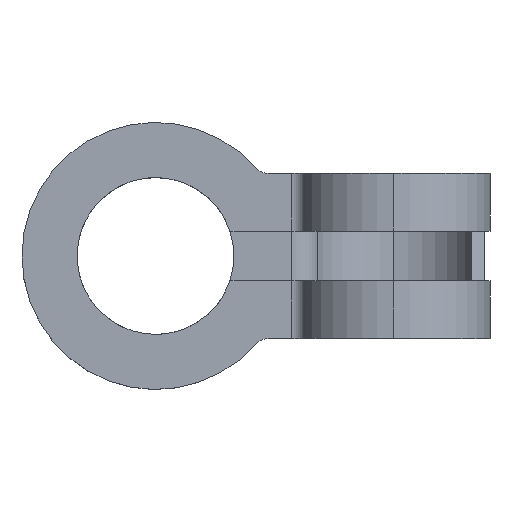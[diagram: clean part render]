
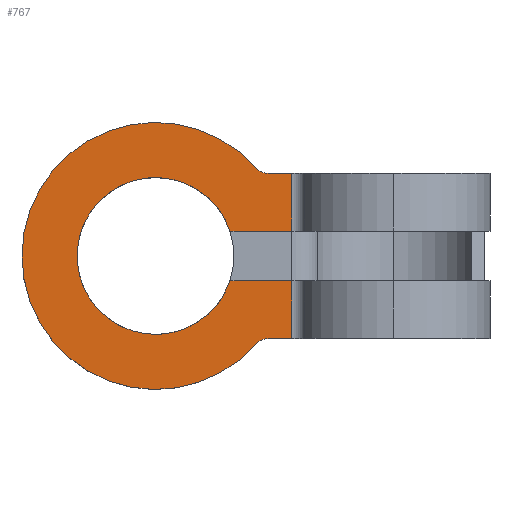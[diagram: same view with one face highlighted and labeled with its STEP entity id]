
A CAD part, top view. The second image highlights one B-rep face of the part: STEP entity #767.
In plain terms, the highlighted planar face has unit normal (0, 0, 1).
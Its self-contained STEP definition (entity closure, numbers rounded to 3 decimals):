
#39 = CARTESIAN_POINT ( 'NONE',  ( 4.942, 3., 1. ) ) ;
#202 = EDGE_CURVE ( 'NONE', #340, #315, #939, .T. ) ;
#259 = VERTEX_POINT ( 'NONE', #974 ) ;
#271 = VERTEX_POINT ( 'NONE', #1033 ) ;
#274 = ORIENTED_EDGE ( 'NONE', *, *, #314, .F. ) ;
#299 = VERTEX_POINT ( 'NONE', #434 ) ;
#314 = EDGE_CURVE ( 'NONE', #777, #299, #587, .T. ) ;
#315 = VERTEX_POINT ( 'NONE', #607 ) ;
#316 = ORIENTED_EDGE ( 'NONE', *, *, #466, .F. ) ;
#340 = VERTEX_POINT ( 'NONE', #39 ) ;
#359 = ORIENTED_EDGE ( 'NONE', *, *, #794, .F. ) ;
#378 = EDGE_CURVE ( 'NONE', #396, #259, #1078, .T. ) ;
#396 = VERTEX_POINT ( 'NONE', #422 ) ;
#401 = ORIENTED_EDGE ( 'NONE', *, *, #1028, .F. ) ;
#405 = ORIENTED_EDGE ( 'NONE', *, *, #202, .T. ) ;
#411 = EDGE_CURVE ( 'NONE', #271, #396, #545, .T. ) ;
#422 = CARTESIAN_POINT ( 'NONE',  ( 2.704, 0.9, 1. ) ) ;
#434 = CARTESIAN_POINT ( 'NONE',  ( 3.641, -3.204, 1. ) ) ;
#459 = LINE ( 'NONE', #460, #461 ) ;
#460 = CARTESIAN_POINT ( 'NONE',  ( 4.942, 0., 1. ) ) ;
#461 = VECTOR ( 'NONE', #462, 1000. ) ;
#462 = DIRECTION ( 'NONE',  ( 0., -1., 0. ) ) ;
#465 = EDGE_CURVE ( 'NONE', #259, #833, #626, .T. ) ;
#466 = EDGE_CURVE ( 'NONE', #299, #880, #630, .T. ) ;
#545 = LINE ( 'NONE', #546, #549 ) ;
#546 = CARTESIAN_POINT ( 'NONE',  ( 0.046, 0.9, 1. ) ) ;
#549 = VECTOR ( 'NONE', #550, 1000. ) ;
#550 = DIRECTION ( 'NONE',  ( -1., 0., 0. ) ) ;
#586 = EDGE_CURVE ( 'NONE', #833, #758, #717, .T. ) ;
#587 = CIRCLE ( 'NONE', #588, 0.6 ) ;
#588 = AXIS2_PLACEMENT_3D ( 'NONE', #589, #590, #591 ) ;
#589 = CARTESIAN_POINT ( 'NONE',  ( 4.092, -3.6, 1. ) ) ;
#590 = DIRECTION ( 'NONE',  ( 0., 0., 1. ) ) ;
#591 = DIRECTION ( 'NONE',  ( 1., 0., 0. ) ) ;
#607 = CARTESIAN_POINT ( 'NONE',  ( 4.092, 3., 1. ) ) ;
#626 = LINE ( 'NONE', #627, #628 ) ;
#627 = CARTESIAN_POINT ( 'NONE',  ( 0.046, -0.9, 1. ) ) ;
#628 = VECTOR ( 'NONE', #629, 1000. ) ;
#629 = DIRECTION ( 'NONE',  ( 1., 0., 0. ) ) ;
#630 = CIRCLE ( 'NONE', #631, 4.85 ) ;
#631 = AXIS2_PLACEMENT_3D ( 'NONE', #632, #633, #634 ) ;
#632 = CARTESIAN_POINT ( 'NONE',  ( 0., 0., 1. ) ) ;
#633 = DIRECTION ( 'NONE',  ( 0., 0., -1. ) ) ;
#634 = DIRECTION ( 'NONE',  ( 1., 0., 0. ) ) ;
#644 = ORIENTED_EDGE ( 'NONE', *, *, #790, .T. ) ;
#717 = LINE ( 'NONE', #718, #719 ) ;
#718 = CARTESIAN_POINT ( 'NONE',  ( 4.942, 0., 1. ) ) ;
#719 = VECTOR ( 'NONE', #720, 1000. ) ;
#720 = DIRECTION ( 'NONE',  ( 0., -1., 0. ) ) ;
#730 = CARTESIAN_POINT ( 'NONE',  ( 4.942, -0.9, 1. ) ) ;
#743 = ORIENTED_EDGE ( 'NONE', *, *, #411, .F. ) ;
#746 = EDGE_LOOP ( 'NONE', ( #405, #359, #316, #274, #644, #891, #842, #806, #743, #401 ) ) ;
#758 = VERTEX_POINT ( 'NONE', #923 ) ;
#767 = ADVANCED_FACE ( 'NONE', ( #956 ), #957, .T. ) ;
#777 = VERTEX_POINT ( 'NONE', #1030 ) ;
#790 = EDGE_CURVE ( 'NONE', #777, #758, #1132, .T. ) ;
#794 = EDGE_CURVE ( 'NONE', #880, #315, #1156, .T. ) ;
#806 = ORIENTED_EDGE ( 'NONE', *, *, #378, .F. ) ;
#833 = VERTEX_POINT ( 'NONE', #730 ) ;
#842 = ORIENTED_EDGE ( 'NONE', *, *, #465, .F. ) ;
#880 = VERTEX_POINT ( 'NONE', #1050 ) ;
#891 = ORIENTED_EDGE ( 'NONE', *, *, #586, .F. ) ;
#923 = CARTESIAN_POINT ( 'NONE',  ( 4.942, -3., 1. ) ) ;
#939 = LINE ( 'NONE', #940, #941 ) ;
#940 = CARTESIAN_POINT ( 'NONE',  ( 8.121, 3., 1. ) ) ;
#941 = VECTOR ( 'NONE', #942, 1000. ) ;
#942 = DIRECTION ( 'NONE',  ( -1., 0., 0. ) ) ;
#956 = FACE_OUTER_BOUND ( 'NONE', #746, .T. ) ;
#957 = PLANE ( 'NONE',  #958 ) ;
#958 = AXIS2_PLACEMENT_3D ( 'NONE', #960, #961, #962 ) ;
#960 = CARTESIAN_POINT ( 'NONE',  ( -5.046, -5.044, 1. ) ) ;
#961 = DIRECTION ( 'NONE',  ( 0., 0., 1. ) ) ;
#962 = DIRECTION ( 'NONE',  ( 1., 0., 0. ) ) ;
#974 = CARTESIAN_POINT ( 'NONE',  ( 2.704, -0.9, 1. ) ) ;
#1028 = EDGE_CURVE ( 'NONE', #340, #271, #459, .T. ) ;
#1030 = CARTESIAN_POINT ( 'NONE',  ( 4.092, -3., 1. ) ) ;
#1033 = CARTESIAN_POINT ( 'NONE',  ( 4.942, 0.9, 1. ) ) ;
#1050 = CARTESIAN_POINT ( 'NONE',  ( 3.641, 3.204, 1. ) ) ;
#1078 = CIRCLE ( 'NONE', #1079, 2.85 ) ;
#1079 = AXIS2_PLACEMENT_3D ( 'NONE', #1080, #1081, #1082 ) ;
#1080 = CARTESIAN_POINT ( 'NONE',  ( 0., 0., 1. ) ) ;
#1081 = DIRECTION ( 'NONE',  ( 0., 0., 1. ) ) ;
#1082 = DIRECTION ( 'NONE',  ( 1., 0., 0. ) ) ;
#1132 = LINE ( 'NONE', #1133, #1134 ) ;
#1133 = CARTESIAN_POINT ( 'NONE',  ( 8.121, -3., 1. ) ) ;
#1134 = VECTOR ( 'NONE', #1135, 1000. ) ;
#1135 = DIRECTION ( 'NONE',  ( 1., 0., 0. ) ) ;
#1156 = CIRCLE ( 'NONE', #1157, 0.6 ) ;
#1157 = AXIS2_PLACEMENT_3D ( 'NONE', #1158, #1159, #1160 ) ;
#1158 = CARTESIAN_POINT ( 'NONE',  ( 4.092, 3.6, 1. ) ) ;
#1159 = DIRECTION ( 'NONE',  ( 0., 0., 1. ) ) ;
#1160 = DIRECTION ( 'NONE',  ( 1., 0., 0. ) ) ;
